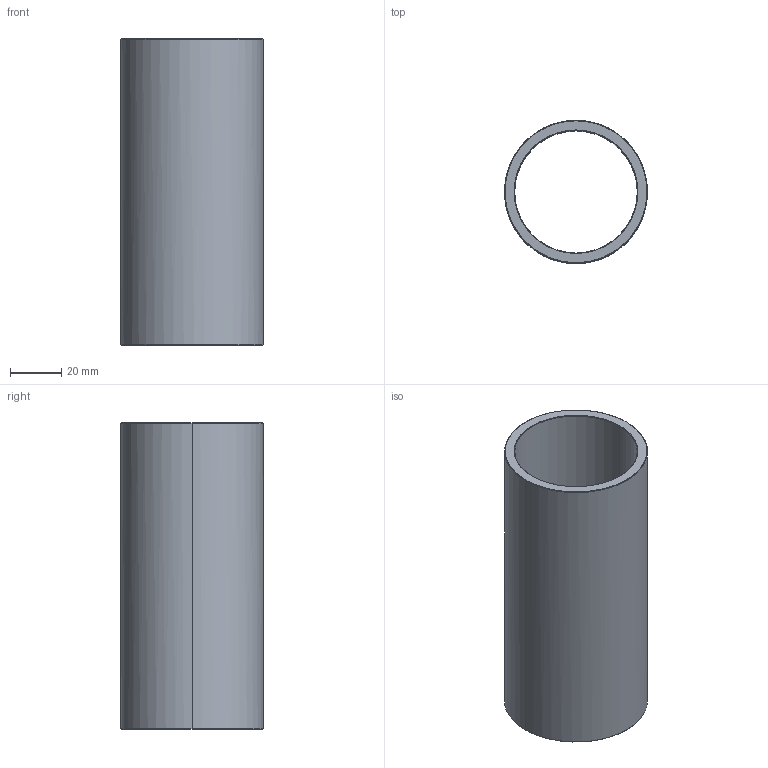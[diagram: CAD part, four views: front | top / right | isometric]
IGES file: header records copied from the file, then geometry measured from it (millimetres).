
Start section: Write IGES format                                    datakit 2008 (c)
Global section: file name: Unknown; native system: DATAKIT Converter; preprocessor: Unknown; author: Unknown; organization: Unknown; date: 950613.180003; units: millimetre
Bounding box: 56 x 55.98 x 120 mm (x, y, z)
Surface area: 40437.4 mm2 (no closed solid volume)
Topology: 0 solids, 0 shells, 14 faces, 56 edges, 56 vertices
Faces by surface type: revolution 12, bspline 2
